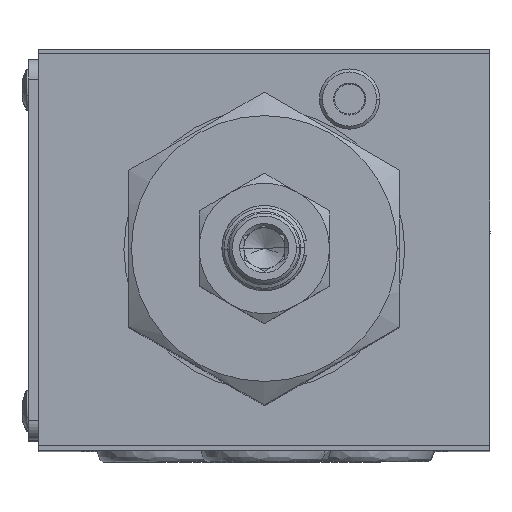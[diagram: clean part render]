
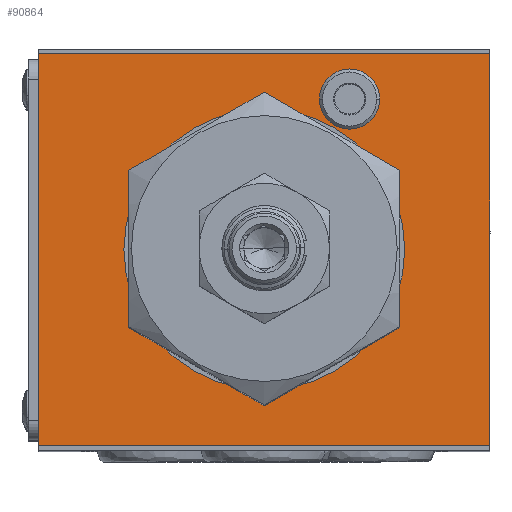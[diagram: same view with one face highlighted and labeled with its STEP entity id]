
A CAD part, top view. The second image highlights one B-rep face of the part: STEP entity #90864.
In plain terms, the highlighted planar face has unit normal (0, 0, 1).
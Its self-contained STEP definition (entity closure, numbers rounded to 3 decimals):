
#3089 = LINE ( 'NONE', #114903, #12946 ) ;
#3587 = DIRECTION ( 'NONE',  ( 0., 1., 0. ) ) ;
#4075 = ORIENTED_EDGE ( 'NONE', *, *, #108204, .F. ) ;
#4935 = ORIENTED_EDGE ( 'NONE', *, *, #21465, .F. ) ;
#6966 = AXIS2_PLACEMENT_3D ( 'NONE', #31636, #40747, #112733 ) ;
#11853 = FACE_OUTER_BOUND ( 'NONE', #63468, .T. ) ;
#12946 = VECTOR ( 'NONE', #23978, 1000. ) ;
#13502 = EDGE_CURVE ( 'NONE', #95040, #74537, #51701, .T. ) ;
#16482 = ORIENTED_EDGE ( 'NONE', *, *, #82638, .F. ) ;
#17073 = EDGE_CURVE ( 'NONE', #108564, #51072, #82471, .T. ) ;
#19625 = AXIS2_PLACEMENT_3D ( 'NONE', #80099, #107263, #98607 ) ;
#21465 = EDGE_CURVE ( 'NONE', #27937, #53362, #99071, .T. ) ;
#22075 = EDGE_CURVE ( 'NONE', #108564, #25099, #79248, .T. ) ;
#23978 = DIRECTION ( 'NONE',  ( 1., 0., 0. ) ) ;
#25099 = VERTEX_POINT ( 'NONE', #76221 ) ;
#27029 = AXIS2_PLACEMENT_3D ( 'NONE', #74697, #112072, #49558 ) ;
#27752 = EDGE_LOOP ( 'NONE', ( #92853, #4075 ) ) ;
#27937 = VERTEX_POINT ( 'NONE', #112411 ) ;
#31636 = CARTESIAN_POINT ( 'NONE',  ( 0., 0., 46.5 ) ) ;
#34961 = ORIENTED_EDGE ( 'NONE', *, *, #39628, .T. ) ;
#39628 = EDGE_CURVE ( 'NONE', #52497, #51072, #58945, .T. ) ;
#40747 = DIRECTION ( 'NONE',  ( 0., 0., 1. ) ) ;
#48839 = CARTESIAN_POINT ( 'NONE',  ( 8.5, 15., 46.5 ) ) ;
#49558 = DIRECTION ( 'NONE',  ( 1., 0., 0. ) ) ;
#51072 = VERTEX_POINT ( 'NONE', #111720 ) ;
#51701 = CIRCLE ( 'NONE', #27029, 14. ) ;
#52497 = VERTEX_POINT ( 'NONE', #66897 ) ;
#53362 = VERTEX_POINT ( 'NONE', #54449 ) ;
#54449 = CARTESIAN_POINT ( 'NONE',  ( 5.5, 15., 46.5 ) ) ;
#55400 = VECTOR ( 'NONE', #3587, 1000. ) ;
#56794 = ORIENTED_EDGE ( 'NONE', *, *, #22075, .T. ) ;
#57863 = DIRECTION ( 'NONE',  ( 1., 0., 0. ) ) ;
#58945 = LINE ( 'NONE', #61378, #103957 ) ;
#59858 = FACE_BOUND ( 'NONE', #27752, .T. ) ;
#61378 = CARTESIAN_POINT ( 'NONE',  ( -22.5, 20., 46.5 ) ) ;
#61844 = AXIS2_PLACEMENT_3D ( 'NONE', #48839, #111730, #57863 ) ;
#62955 = CARTESIAN_POINT ( 'NONE',  ( -14., 0., 46.5 ) ) ;
#63468 = EDGE_LOOP ( 'NONE', ( #111711, #56794, #97848, #34961 ) ) ;
#65255 = DIRECTION ( 'NONE',  ( 1., 0., 0. ) ) ;
#66897 = CARTESIAN_POINT ( 'NONE',  ( -22.5, 19.5, 46.5 ) ) ;
#68011 = AXIS2_PLACEMENT_3D ( 'NONE', #110880, #92013, #65255 ) ;
#74537 = VERTEX_POINT ( 'NONE', #62955 ) ;
#74697 = CARTESIAN_POINT ( 'NONE',  ( 0., 0., 46.5 ) ) ;
#76142 = CIRCLE ( 'NONE', #6966, 14. ) ;
#76221 = CARTESIAN_POINT ( 'NONE',  ( 22.5, 19.5, 46.5 ) ) ;
#79248 = LINE ( 'NONE', #113076, #55400 ) ;
#79403 = DIRECTION ( 'NONE',  ( 0., -1., 0. ) ) ;
#80099 = CARTESIAN_POINT ( 'NONE',  ( -22.5, -20., 46.5 ) ) ;
#82161 = EDGE_CURVE ( 'NONE', #52497, #25099, #3089, .T. ) ;
#82471 = LINE ( 'NONE', #110453, #103521 ) ;
#82638 = EDGE_CURVE ( 'NONE', #53362, #27937, #90343, .T. ) ;
#82833 = CARTESIAN_POINT ( 'NONE',  ( 14., 0., 46.5 ) ) ;
#83770 = FACE_BOUND ( 'NONE', #107568, .T. ) ;
#90343 = CIRCLE ( 'NONE', #61844, 3. ) ;
#90864 = ADVANCED_FACE ( 'NONE', ( #83770, #59858, #11853 ), #116699, .T. ) ;
#92013 = DIRECTION ( 'NONE',  ( 0., 0., 1. ) ) ;
#92853 = ORIENTED_EDGE ( 'NONE', *, *, #13502, .F. ) ;
#95040 = VERTEX_POINT ( 'NONE', #82833 ) ;
#97848 = ORIENTED_EDGE ( 'NONE', *, *, #82161, .F. ) ;
#98607 = DIRECTION ( 'NONE',  ( 1., 0., 0. ) ) ;
#99071 = CIRCLE ( 'NONE', #68011, 3. ) ;
#101229 = CARTESIAN_POINT ( 'NONE',  ( 22.5, -19.5, 46.5 ) ) ;
#103521 = VECTOR ( 'NONE', #111995, 1000. ) ;
#103957 = VECTOR ( 'NONE', #79403, 1000. ) ;
#107263 = DIRECTION ( 'NONE',  ( 0., 0., 1. ) ) ;
#107568 = EDGE_LOOP ( 'NONE', ( #4935, #16482 ) ) ;
#108204 = EDGE_CURVE ( 'NONE', #74537, #95040, #76142, .T. ) ;
#108564 = VERTEX_POINT ( 'NONE', #101229 ) ;
#110453 = CARTESIAN_POINT ( 'NONE',  ( 22.5, -19.5, 46.5 ) ) ;
#110880 = CARTESIAN_POINT ( 'NONE',  ( 8.5, 15., 46.5 ) ) ;
#111711 = ORIENTED_EDGE ( 'NONE', *, *, #17073, .F. ) ;
#111720 = CARTESIAN_POINT ( 'NONE',  ( -22.5, -19.5, 46.5 ) ) ;
#111730 = DIRECTION ( 'NONE',  ( 0., 0., 1. ) ) ;
#111995 = DIRECTION ( 'NONE',  ( -1., 0., 0. ) ) ;
#112072 = DIRECTION ( 'NONE',  ( 0., 0., 1. ) ) ;
#112411 = CARTESIAN_POINT ( 'NONE',  ( 11.5, 15., 46.5 ) ) ;
#112733 = DIRECTION ( 'NONE',  ( 1., 0., 0. ) ) ;
#113076 = CARTESIAN_POINT ( 'NONE',  ( 22.5, 20., 46.5 ) ) ;
#114903 = CARTESIAN_POINT ( 'NONE',  ( -22.5, 19.5, 46.5 ) ) ;
#116699 = PLANE ( 'NONE',  #19625 ) ;
